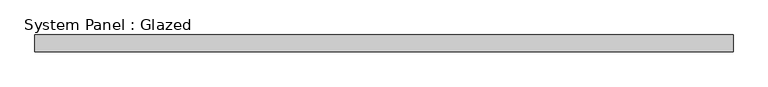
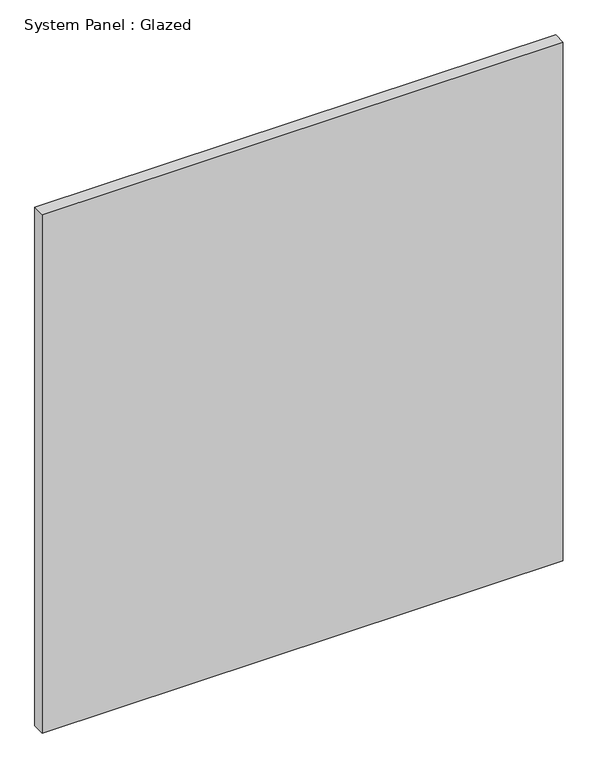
"""IFC4 building model written with IfcOpenShell, lengths in millimetres: plate geometry, System Panel : Glazed."""

import ifcopenshell
import ifcopenshell.guid

model = None  # the IFC model being written
_history = None  # IfcOwnerHistory: only IFC2X3 demands one
_inside = {}  # id of a spatial element -> (the spatial element, [elements in it])
_under = {}  # id of a project, library or spatial element -> (it, [spatial elements below it])
_declared = {}  # id of a project -> (the project, [libraries it declares])
_typed = {}  # id of a type object -> (the type object, [elements of that type])
_made_of = {}  # id of a material, layer set ... -> (it, [elements and type objects made of it])


def new_model(schema):
    """Start an empty IFC model of exactly this schema.

    Asked for "IFC4X3", IfcOpenShell would pick the latest addendum, in which some entities
    have other attributes; the version numbers below select the first issue.
    IFC2X3 requires an IfcOwnerHistory on every rooted entity: one is made here for all.
    """
    global model, _history
    if schema == "IFC4X3":
        model = ifcopenshell.file(schema_version=(4, 3, 0, 0))
    else:
        model = ifcopenshell.file(schema=schema)
    _inside.clear()
    _under.clear()
    _declared.clear()
    _typed.clear()
    _made_of.clear()
    _history = None
    if model.schema == "IFC2X3":
        org = make("IfcOrganization", Name="unknown")
        user = make(
            "IfcPersonAndOrganization",
            ThePerson=make("IfcPerson", FamilyName="unknown"),
            TheOrganization=org,
        )
        app = make(
            "IfcApplication",
            ApplicationDeveloper=org,
            Version="unknown",
            ApplicationFullName="unknown",
            ApplicationIdentifier="unknown",
        )
        _history = make(
            "IfcOwnerHistory",
            OwningUser=user,
            OwningApplication=app,
            ChangeAction="ADDED",
            CreationDate=0,
        )
    return model


def make(cls, **values):
    """One entity of the class cls with the attributes given. An attribute that is None is left unset."""
    return model.create_entity(
        cls, **{name: value for name, value in values.items() if value is not None}
    )


def rooted(cls, **values):
    """An entity with a GlobalId (a new one), such as an element, a storey or a relation."""
    return make(cls, GlobalId=ifcopenshell.guid.new(), OwnerHistory=_history, **values)


def si_unit(unit_type, name, prefix=None):
    """IfcSIUnit, for example si_unit("LENGTHUNIT", "METRE", prefix="MILLI")."""
    return make("IfcSIUnit", UnitType=unit_type, Prefix=prefix, Name=name)


def assignment(units):
    """IfcUnitAssignment: the units of a project."""
    return None if units is None else make("IfcUnitAssignment", Units=units)


def point(xyz):
    """IfcCartesianPoint."""
    return None if xyz is None else make("IfcCartesianPoint", Coordinates=xyz)


def direction(xyz):
    """IfcDirection."""
    return None if xyz is None else make("IfcDirection", DirectionRatios=xyz)


def frame(location, z_axis=None, x_axis=None):
    """IfcAxis2Placement3D, a coordinate frame: its origin and axes. An axis left out is left unset."""
    return make(
        "IfcAxis2Placement3D",
        Location=point(location),
        Axis=direction(z_axis),
        RefDirection=direction(x_axis),
    )


def origin():
    """The frame at (0, 0, 0) with its axes left unset."""
    return frame((0.0, 0.0, 0.0))


def origin_with_axes():
    """The frame at (0, 0, 0) with the z axis (0, 0, 1) and the x axis (1, 0, 0) written out."""
    return frame((0.0, 0.0, 0.0), z_axis=(0.0, 0.0, 1.0), x_axis=(1.0, 0.0, 0.0))


def place(relative_to, where):
    """IfcLocalPlacement: puts the frame where relative to a parent placement (None: the world)."""
    return make(
        "IfcLocalPlacement", PlacementRelTo=relative_to, RelativePlacement=where
    )


def context(
    kind, dimensions, precision=None, world=None, true_north=None, identifier=None
):
    """IfcGeometricRepresentationContext, for example the 3D "Model" context."""
    return make(
        "IfcGeometricRepresentationContext",
        ContextIdentifier=identifier,
        ContextType=kind,
        CoordinateSpaceDimension=dimensions,
        Precision=precision,
        WorldCoordinateSystem=world,
        TrueNorth=true_north,
    )


def project(units=None, contexts=None):
    """IfcProject with its units and contexts."""
    return rooted(
        "IfcProject",
        Name="project",
        RepresentationContexts=contexts,
        UnitsInContext=assignment(units),
    )


def spatial(cls, under=None, at=None, **own):
    """A site, building, storey or space (cls), placed at a placement, below another one or the project."""
    s = rooted(cls, ObjectPlacement=at, **own)
    if under is not None:
        _under.setdefault(under.id(), (under, []))[1].append(s)
    return s


def polyline(points):
    """IfcPolyline through the points."""
    return make("IfcPolyline", Points=[point(p) for p in points])


def outline(outer, holes=None, kind="AREA"):
    """IfcArbitraryClosedProfileDef: a profile drawn as a closed curve; with holes, ...WithVoids."""
    if holes is None:
        return make("IfcArbitraryClosedProfileDef", ProfileType=kind, OuterCurve=outer)
    return make(
        "IfcArbitraryProfileDefWithVoids",
        ProfileType=kind,
        OuterCurve=outer,
        InnerCurves=holes,
    )


def extrude(swept, where, along, depth):
    """IfcExtrudedAreaSolid: the profile swept, set in the frame where, extruded along a direction by depth."""
    return make(
        "IfcExtrudedAreaSolid",
        SweptArea=swept,
        Position=where,
        ExtrudedDirection=direction(along),
        Depth=depth,
    )


def shape(context_of_items, identifier, shape_type, items):
    """IfcShapeRepresentation: the items that make up one representation, for example the "Body"."""
    return make(
        "IfcShapeRepresentation",
        ContextOfItems=context_of_items,
        RepresentationIdentifier=identifier,
        RepresentationType=shape_type,
        Items=items,
    )


def source(mapping_origin, context_of_items, identifier, shape_type, items):
    """IfcRepresentationMap: a shape defined once, which mapped items show again and again."""
    return make(
        "IfcRepresentationMap",
        MappingOrigin=mapping_origin,
        MappedRepresentation=shape(context_of_items, identifier, shape_type, items),
    )


def transform(
    local_origin,
    x_axis=None,
    y_axis=None,
    z_axis=None,
    scale=None,
    scale2=None,
    scale3=None,
    uniform=True,
):
    """IfcCartesianTransformationOperator3D, or its non-uniform kind. x_axis, y_axis, z_axis: its Axis1, 2, 3."""
    if uniform:
        return make(
            "IfcCartesianTransformationOperator3D",
            Axis1=direction(x_axis),
            Axis2=direction(y_axis),
            LocalOrigin=point(local_origin),
            Scale=scale,
            Axis3=direction(z_axis),
        )
    return make(
        "IfcCartesianTransformationOperator3DnonUniform",
        Axis1=direction(x_axis),
        Axis2=direction(y_axis),
        LocalOrigin=point(local_origin),
        Scale=scale,
        Axis3=direction(z_axis),
        Scale2=scale2,
        Scale3=scale3,
    )


def mapped(mapping_source, mapping_target):
    """IfcMappedItem: shows the shape of a source again, moved by a transform."""
    return make(
        "IfcMappedItem", MappingSource=mapping_source, MappingTarget=mapping_target
    )


def made_of(thing, what):
    """Note that an element or type object is made of a material, layer set ...; save() writes the relation."""
    if what is not None:
        _made_of.setdefault(what.id(), (what, []))[1].append(thing)
    return thing


def element(
    cls,
    number,
    at=None,
    inside=None,
    cuts=None,
    type_object=None,
    material=None,
    context=None,
    identifier="Body",
    shape_type=None,
    held_by="IfcProductDefinitionShape",
    body=None,
    shapes=None,
    **own,
):
    """One element of the class cls, such as IfcWall. Its Tag is "e" and its number.

    at: its placement. inside: the storey or other place that contains it. cuts: it is an
    opening in that element (IfcRelVoidsElement). A single representation is given by context,
    identifier, shape_type and body (its items); several are given by shapes. held_by: the class
    of the entity that holds the representations. save() writes the other relations.
    """
    e = rooted(cls, Tag="e%d" % number, ObjectPlacement=at, **own)
    if body is not None:
        shapes = [shape(context, identifier, shape_type, body)]
    if shapes is not None:
        e.Representation = make(held_by, Representations=shapes)
    if inside is not None:
        _inside.setdefault(inside.id(), (inside, []))[1].append(e)
    if cuts is not None:
        rooted(
            "IfcRelVoidsElement", RelatingBuildingElement=cuts, RelatedOpeningElement=e
        )
    if type_object is not None:
        _typed.setdefault(type_object.id(), (type_object, []))[1].append(e)
    return made_of(e, material)


def aggregate(whole, parts):
    """IfcRelAggregates: a whole, such as a stair, and the parts it consists of."""
    return rooted("IfcRelAggregates", RelatingObject=whole, RelatedObjects=parts)


def save(model, path):
    """Write the relations noted so far, then the file.

    IfcRelAggregates (storeys below a building ...), IfcRelContainedInSpatialStructure (elements
    in a storey), IfcRelDefinesByType, IfcRelAssociatesMaterial and IfcRelDeclares: one each for
    every whole, place, type object, material and project.
    """
    for whole, parts in _under.values():
        aggregate(whole, parts)
    for where, things in _inside.values():
        rooted(
            "IfcRelContainedInSpatialStructure",
            RelatedElements=things,
            RelatingStructure=where,
        )
    for kind, things in _typed.values():
        rooted("IfcRelDefinesByType", RelatedObjects=things, RelatingType=kind)
    for what, things in _made_of.values():
        rooted("IfcRelAssociatesMaterial", RelatedObjects=things, RelatingMaterial=what)
    for by, libraries in _declared.values():
        rooted("IfcRelDeclares", RelatingContext=by, RelatedDefinitions=libraries)
    model.write(path)


def system_panel_glazed_f009bf0e(model_context):
    return source(origin(), model_context, "Body", "SweptSolid", [
        extrude(outline(polyline([(534.3071428, -44.45), (-534.3071428, -44.45), (-534.3071428, -19.05), (534.3071428, -19.05), (534.3071428, -44.45)])), origin_with_axes(), (0.0, 0.0, 1.0), 1123.95),
    ])


if __name__ == "__main__":
    model = new_model("IFC4")
    model_context = context("Model", 3, world=origin())
    ifc_project = project(units=[si_unit("LENGTHUNIT", "METRE", prefix="MILLI")], contexts=[model_context])
    site = spatial("IfcSite", under=ifc_project)
    building = spatial("IfcBuilding", under=site)
    placement = place(None, origin())
    system_panel_glazed_shape = system_panel_glazed_f009bf0e(model_context)
    element("IfcPlate", 1, ObjectType="System Panel : Glazed", at=placement, inside=building, context=model_context, shape_type="MappedRepresentation", body=[
        mapped(system_panel_glazed_shape, transform((0.0, 0.0, 0.0), x_axis=(1.0, 0.0, 0.0), y_axis=(0.0, 1.0, 0.0), z_axis=(0.0, 0.0, 1.0))),
    ])
    save(model, "model.ifc")
